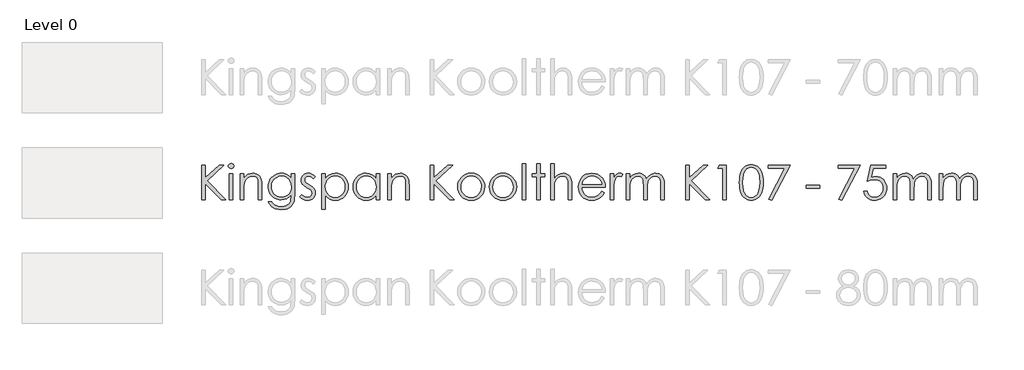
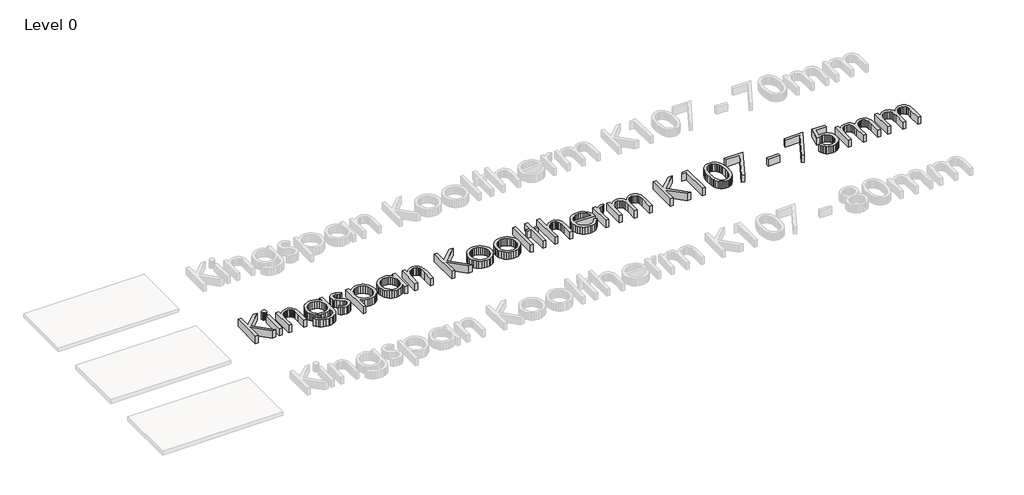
# One storey, part 8 of 13: 1 proxy.
"""IFC4 building model written with IfcOpenShell, lengths in millimetres."""

from ifc_helpers import new_model, si_unit, origin, origin_with_axes, place, context, project, spatial, polyline, outline, extrude, element, save

model = new_model("IFC4")

# Units and contexts
model_context = context("Model", 3, world=origin())
ifc_project = project(units=[si_unit("LENGTHUNIT", "METRE", prefix="MILLI")], contexts=[model_context])

# Site, building, storey
site = spatial("IfcSite", under=ifc_project)
building = spatial("IfcBuilding", under=site)
storey = spatial("IfcBuildingStorey", under=building, Name="Level 0", Elevation=0.0)

# Proxy
placement = place(None, origin())
element("IfcBuildingElementProxy", 1, Name="600mm KI_CenturyGothic", ObjectType="600mm KI_CenturyGothic", at=placement, inside=storey, context=model_context, shape_type="SweptSolid", body=[
    extrude(outline(polyline([(-3852.2663848, -3099.1034017), (-3792.944575, -3099.1034017), (-3792.944575, -3318.316027), (-3555.1938841, -3099.1034017), (-3471.6181051, -3099.1034017), (-3760.9664119, -3366.0515459), (-3441.9572002, -3692.3214999), (-3520.8984627, -3692.3214999), (-3792.944575, -3414.0960325), (-3792.944575, -3692.3214999), (-3852.2663848, -3692.3214999), (-3852.2663848, -3099.1034017)])), origin_with_axes(), (0.0, 0.0, 1.0), 150.0),
    extrude(outline(polyline([(-3348.1854852, -3069.4424967), (-3329.145347, -3072.7252792), (-3313.1176445, -3082.5736265), (-3302.226531, -3097.0178693), (-3298.5961598, -3114.088338), (-3302.226531, -3130.9270809), (-3313.1176445, -3145.2940817), (-3329.145347, -3155.142429), (-3348.1854852, -3158.4252115), (-3366.9938975, -3155.142429), (-3382.9443581, -3145.2940817), (-3393.8354717, -3130.9270809), (-3397.4658428, -3114.088338), (-3393.8354717, -3097.0178693), (-3382.9443581, -3082.5736265), (-3366.9938975, -3072.7252792), (-3348.1854852, -3069.4424967)])), origin_with_axes(), (0.0, 0.0, 1.0), 150.0),
    extrude(outline(polyline([(-3377.6919062, -3247.4079262), (-3318.3700964, -3247.4079262), (-3318.3700964, -3692.3214999), (-3377.6919062, -3692.3214999), (-3377.6919062, -3247.4079262)])), origin_with_axes(), (0.0, 0.0, 1.0), 150.0),
    extrude(outline(polyline([(-3189.8395084, -3247.4079262), (-3130.5176986, -3247.4079262), (-3130.5176986, -3326.5036726), (-3096.9946967, -3286.9944204), (-3060.0730495, -3259.303185), (-3019.7141359, -3242.9665147), (-2975.879335, -3237.5209579), (-2953.4357238, -3239.0995901), (-2932.2955704, -3243.8354865), (-2912.4588747, -3251.7286472), (-2893.9256368, -3262.7790723), (-2877.212412, -3276.5039994), (-2862.835756, -3292.4206667), (-2841.0921499, -3330.8292213), (-2833.6238199, -3355.2087086), (-2828.2892984, -3385.5551357), (-2824.0216812, -3464.1488095), (-2824.0216812, -3692.3214999), (-2883.343491, -3692.3214999), (-2883.343491, -3479.1337458), (-2883.343491, -3376.092998), (-2884.7290183, -3355.2956057), (-2889.8125035, -3337.2403023), (-2898.2849788, -3321.9270877), (-2910.1464442, -3309.355962), (-2924.7403432, -3299.5558909), (-2941.4101193, -3292.5558401), (-2980.977303, -3286.9557994), (-3005.3471351, -3289.1137461), (-3028.4038541, -3295.5875862), (-3050.1474602, -3306.3773197), (-3070.5779533, -3321.4829466), (-3088.6622225, -3339.7651482), (-3103.3671568, -3360.084606), (-3114.6927562, -3382.44132), (-3122.6390208, -3406.8352901), (-3128.5480292, -3453.9142525), (-3130.5176986, -3528.4141035), (-3130.5176986, -3692.3214999), (-3189.8395084, -3692.3214999), (-3189.8395084, -3247.4079262)])), origin_with_axes(), (0.0, 0.0, 1.0), 150.0),
    extrude(outline(polyline([(-2319.7862977, -3247.4079262), (-2260.4644879, -3247.4079262), (-2260.4644879, -3598.395301), (-2264.5196897, -3678.6496765), (-2269.588692, -3709.4499001), (-2276.6852953, -3734.0321474), (-2289.9371156, -3762.6454585), (-2307.2924139, -3787.7732271), (-2328.7511904, -3809.4154531), (-2354.3134448, -3827.5721366), (-2383.3226209, -3841.9343098), (-2415.122162, -3852.1930049), (-2449.7120682, -3858.348222), (-2487.0923395, -3860.3999611), (-2541.0458345, -3856.3833802), (-2589.206184, -3844.3336376), (-2630.260275, -3825.5059147), (-2662.8949946, -3801.1553932), (-2690.2000204, -3767.8061856), (-2715.2650299, -3721.9824048), (-2655.94322, -3721.9824048), (-2642.4355358, -3743.151524), (-2627.0933555, -3761.3951046), (-2609.9166791, -3776.7131468), (-2590.9055067, -3789.1056506), (-2569.7894914, -3798.6691682), (-2546.2982864, -3805.5002523), (-2492.1903075, -3810.9651195), (-2438.5071593, -3805.6354257), (-2415.083541, -3798.9733084), (-2393.93856, -3789.6463441), (-2359.6624492, -3765.6047903), (-2336.8567664, -3736.1176798), (-2329.3884364, -3717.4782342), (-2324.0539149, -3693.7697863), (-2319.7862977, -3631.1458835), (-2319.7862977, -3608.4367532), (-2354.757586, -3644.2190818), (-2396.6420279, -3670.6165148), (-2443.392712, -3686.8952536), (-2492.9627269, -3692.3214999), (-2522.4063889, -3690.4242447), (-2550.9521133, -3684.7324793), (-2578.5999001, -3675.2462036), (-2605.3497494, -3661.9654175), (-2630.1540674, -3645.4742634), (-2651.9652601, -3626.3568832), (-2670.7833277, -3604.6132772), (-2686.6082702, -3580.2434451), (-2699.1456025, -3553.9280817), (-2708.1008399, -3526.3478816), (-2713.4739824, -3497.5028447), (-2715.2650299, -3467.392971), (-2713.3967404, -3437.1044753), (-2707.7918722, -3407.8780563), (-2698.4504251, -3379.713714), (-2685.3723991, -3352.6114483), (-2668.9971079, -3327.4257483), (-2649.7638648, -3305.0111029), (-2627.67267, -3285.367512), (-2602.7235235, -3268.4949758), (-2575.9833294, -3254.943843), (-2548.5189922, -3245.2644624), (-2520.3305117, -3239.456834), (-2491.4178881, -3237.5209579), (-2444.5320306, -3242.4644421), (-2400.8903346, -3257.2948945), (-2359.6045177, -3283.8661218), (-2319.7862977, -3324.0319306), (-2319.7862977, -3247.4079262)]), holes=[polyline([(-2484.1571458, -3286.9557994), (-2529.0154023, -3292.9806707), (-2570.5908765, -3311.0552847), (-2606.2187212, -3339.7699758), (-2633.2340897, -3377.7150788), (-2650.2659375, -3421.9940208), (-2655.94322, -3469.7102292), (-2653.0080263, -3505.6229036), (-2644.2024452, -3538.2817613), (-2629.5264766, -3567.6868023), (-2608.9801206, -3593.8380266), (-2583.7606272, -3615.296803), (-2555.0652466, -3630.6245004), (-2522.8939786, -3639.8211189), (-2487.2468234, -3642.8866584), (-2451.3244937, -3639.845257), (-2419.1001219, -3630.7210528), (-2390.573708, -3615.5140459), (-2365.7452519, -3594.2242363), (-2345.6382095, -3567.9812872), (-2331.2760363, -3537.9148621), (-2322.6587323, -3504.024961), (-2319.7862977, -3466.3115838), (-2325.0773706, -3417.6105407), (-2340.9505892, -3374.3936754), (-2366.4983608, -3338.1672056), (-2400.8130926, -3310.4373492), (-2440.9982119, -3292.8261869), (-2484.1571458, -3286.9557994)])]), origin_with_axes(), (0.0, 0.0, 1.0), 150.0),
    extrude(outline(polyline([(-1904.5336289, -3298.6965743), (-1940.9918246, -3336.390641), (-1962.9575012, -3314.7628978), (-1984.6721416, -3299.3145098), (-2006.1357456, -3290.045477), (-2027.3483133, -3286.9557994), (-2052.181597, -3291.6289368), (-2073.2300256, -3305.6483489), (-2087.5970264, -3325.8857371), (-2092.3860267, -3349.212803), (-2088.4466878, -3370.7633042), (-2076.628671, -3391.2324183), (-2052.0657341, -3413.400855), (-2010.2006027, -3439.122421), (-1958.3326401, -3471.9888664), (-1939.8428507, -3487.8138088), (-1926.315856, -3503.2332311), (-1909.9791857, -3535.9065716), (-1904.5336289, -3572.4420092), (-1906.9474396, -3598.5884059), (-1914.1888714, -3622.6492701), (-1926.2579245, -3644.624602), (-1943.1545989, -3664.5144015), (-1963.6719892, -3681.0055557), (-1986.6031901, -3692.7849515), (-2011.9482016, -3699.852589), (-2039.7070237, -3702.2084682), (-2077.4397114, -3698.3270607), (-2113.3958344, -3686.6828383), (-2145.4512394, -3668.2027042), (-2171.4817731, -3643.8135617), (-2135.7959969, -3603.3387852), (-2114.0041146, -3624.9665283), (-2091.5749863, -3640.4149163), (-2068.5086121, -3649.6839491), (-2044.8049918, -3652.7736267), (-2013.637869, -3647.1349651), (-1987.4914724, -3630.2189802), (-1969.7644472, -3605.6560434), (-1963.8554388, -3577.0765256), (-1967.7561567, -3553.2860081), (-1979.4583106, -3532.2762005), (-2005.0253927, -3510.5712154), (-2050.2119275, -3483.7682622), (-2099.762632, -3453.1032121), (-2117.441381, -3437.9444814), (-2130.3890611, -3422.9016136), (-2146.3781427, -3390.7689666), (-2151.7078365, -3354.310771), (-2149.5305794, -3330.2643896), (-2142.9988078, -3308.3325063), (-2132.1125219, -3288.5151211), (-2116.8717217, -3270.812234), (-2098.309518, -3256.2473007), (-2077.4590218, -3245.8437769), (-2054.3202332, -3239.6016627), (-2028.8931521, -3237.5209579), (-1997.9481, -3241.3444339), (-1966.9064954, -3252.814862), (-1935.7683384, -3271.9322421), (-1904.5336289, -3298.6965743)])), origin_with_axes(), (0.0, 0.0, 1.0), 150.0),
    extrude(outline(polyline([(-1795.7769776, -3247.4079262), (-1736.4551678, -3247.4079262), (-1736.4551678, -3328.5119631), (-1700.9238754, -3288.2689124), (-1660.4490989, -3259.9211205), (-1614.9922173, -3243.1209986), (-1564.5146096, -3237.5209579), (-1520.0618732, -3241.7596094), (-1478.9305402, -3254.4755637), (-1441.1206107, -3275.668821), (-1406.6320845, -3305.3393811), (-1377.9077381, -3340.9768811), (-1357.3903478, -3380.070958), (-1345.0799137, -3422.6216116), (-1340.9764356, -3468.628842), (-1345.0412927, -3515.5291824), (-1357.235864, -3558.7508754), (-1377.5601494, -3598.293921), (-1406.014149, -3634.1583192), (-1440.2130179, -3663.9302594), (-1477.7719111, -3685.1959309), (-1518.6908288, -3697.9553339), (-1562.9697708, -3702.2084682), (-1612.6170277, -3696.743601), (-1658.0545988, -3680.3489992), (-1699.3211052, -3653.1019049), (-1736.4551678, -3615.07956), (-1736.4551678, -3850.5129928), (-1795.7769776, -3850.5129928), (-1795.7769776, -3247.4079262)]), holes=[polyline([(-1568.5311905, -3286.9557994), (-1602.5852307, -3290.2530647), (-1633.8392507, -3300.1448607), (-1662.2932503, -3316.6311872), (-1687.9472295, -3339.7120444), (-1709.1694525, -3367.6977647), (-1724.3281832, -3398.8986808), (-1733.4234216, -3433.3147926), (-1736.4551678, -3470.9461002), (-1731.048232, -3519.8016272), (-1714.8274246, -3563.4819442), (-1688.5265441, -3600.3263495), (-1652.8793888, -3628.6741414), (-1611.4390881, -3646.7487554), (-1567.7587711, -3652.7736267), (-1525.0632888, -3646.7101344), (-1485.0326535, -3628.5196576), (-1450.2544701, -3599.4187567), (-1423.3163435, -3560.6239924), (-1406.05277, -3515.9588407), (-1400.2982454, -3469.2467775), (-1405.9948385, -3422.3029886), (-1423.0846177, -3377.8695627), (-1449.8103289, -3339.5189395), (-1484.414718, -3310.8235589), (-1524.7157001, -3292.9227393), (-1568.5311905, -3286.9557994)])]), origin_with_axes(), (0.0, 0.0, 1.0), 150.0),
    extrude(outline(polyline([(-807.0801472, -3247.4079262), (-807.0801472, -3692.3214999), (-866.401957, -3692.3214999), (-866.401957, -3616.4699149), (-903.4780882, -3654.3184655), (-944.8797679, -3681.0441767), (-990.4525125, -3696.9173953), (-1040.0418379, -3702.2084682), (-1084.3159523, -3697.9553339), (-1125.2203871, -3685.1959309), (-1162.7551422, -3663.9302594), (-1196.9202178, -3634.1583192), (-1225.340424, -3598.293921), (-1245.6405713, -3558.7508754), (-1257.8206597, -3515.5291824), (-1261.8806892, -3468.628842), (-1257.7820388, -3422.6216116), (-1245.4860875, -3380.070958), (-1224.9928353, -3340.9768811), (-1196.3022822, -3305.3393811), (-1161.8475494, -3275.668821), (-1124.061758, -3254.4755637), (-1082.9449079, -3241.7596094), (-1038.4969991, -3237.5209579), (-987.7490446, -3243.1209986), (-942.0990581, -3259.9211205), (-921.2051134, -3272.6081091), (-901.6242816, -3288.2689124), (-866.401957, -3328.5119631), (-866.401957, -3247.4079262), (-807.0801472, -3247.4079262)]), holes=[polyline([(-1034.3259343, -3286.9557994), (-1078.1414247, -3292.9227393), (-1118.4424068, -3310.8235589), (-1153.0467959, -3339.5189395), (-1179.7725071, -3377.8695627), (-1196.8622863, -3422.3029886), (-1202.5588794, -3469.2467775), (-1196.8043548, -3515.9588407), (-1179.5407813, -3560.6239924), (-1152.6026548, -3599.4187567), (-1117.8244713, -3628.5196576), (-1077.6779731, -3646.7101344), (-1034.6349021, -3652.7736267), (-991.0125165, -3646.7487554), (-949.7460102, -3628.6741414), (-914.2726493, -3600.3263495), (-888.0297002, -3563.4819442), (-871.8088928, -3519.8016272), (-866.401957, -3470.9461002), (-869.4337032, -3433.3147926), (-878.5289416, -3398.8986808), (-893.6876723, -3367.6977647), (-914.9098953, -3339.7120444), (-940.5638746, -3316.6311872), (-969.0178742, -3300.1448607), (-1000.2718941, -3290.2530647), (-1034.3259343, -3286.9557994)])]), origin_with_axes(), (0.0, 0.0, 1.0), 150.0),
    extrude(outline(polyline([(-668.662591, -3247.4079262), (-609.3407811, -3247.4079262), (-609.3407811, -3326.5036726), (-575.8177792, -3286.9944204), (-538.896132, -3259.303185), (-498.5372184, -3242.9665147), (-454.7024175, -3237.5209579), (-432.2588064, -3239.0995901), (-411.1186529, -3243.8354865), (-391.2819572, -3251.7286472), (-372.7487193, -3262.7790723), (-356.0354946, -3276.5039994), (-341.6588385, -3292.4206667), (-319.9152324, -3330.8292213), (-312.4469024, -3355.2087086), (-307.1123809, -3385.5551357), (-302.8447637, -3464.1488095), (-302.8447637, -3692.3214999), (-362.1665735, -3692.3214999), (-362.1665735, -3479.1337458), (-362.1665735, -3376.092998), (-363.5521008, -3355.2956057), (-368.635586, -3337.2403023), (-377.1080613, -3321.9270877), (-388.9695267, -3309.355962), (-403.5634257, -3299.5558909), (-420.2332018, -3292.5558401), (-459.8003855, -3286.9557994), (-484.1702176, -3289.1137461), (-507.2269366, -3295.5875862), (-528.9705427, -3306.3773197), (-549.4010358, -3321.4829466), (-567.485305, -3339.7651482), (-582.1902393, -3360.084606), (-593.5158387, -3382.44132), (-601.4621033, -3406.8352901), (-607.3711117, -3453.9142525), (-609.3407811, -3528.4141035), (-609.3407811, -3692.3214999), (-668.662591, -3692.3214999), (-668.662591, -3247.4079262)])), origin_with_axes(), (0.0, 0.0, 1.0), 150.0),
    extrude(outline(polyline([(62.9730635, -3099.1034017), (122.2948734, -3099.1034017), (122.2948734, -3318.316027), (360.0455643, -3099.1034017), (443.6213432, -3099.1034017), (154.2730365, -3366.0515459), (473.2822481, -3692.3214999), (394.3409856, -3692.3214999), (122.2948734, -3414.0960325), (122.2948734, -3692.3214999), (62.9730635, -3692.3214999), (62.9730635, -3099.1034017)])), origin_with_axes(), (0.0, 0.0, 1.0), 150.0),
    extrude(outline(polyline([(760.1588128, -3237.5209579), (809.4681362, -3242.1458191), (854.3553585, -3256.0204025), (894.8204798, -3279.1447083), (930.8635, -3311.5187363), (957.7630055, -3346.7507161), (976.9769381, -3385.091684), (988.5052976, -3426.54164), (992.3480841, -3471.1005841), (988.283227, -3515.9153921), (976.0886558, -3557.8239721), (955.7643703, -3596.8263241), (927.3103707, -3632.9224481), (892.4742558, -3663.2350819), (853.0036246, -3684.8869632), (808.8984769, -3697.8780919), (760.1588128, -3702.2084682), (711.2839754, -3697.8780919), (667.0822753, -3684.8869632), (627.5537126, -3663.2350819), (592.6982872, -3632.9224481), (564.2442876, -3596.8263241), (543.9200022, -3557.8239721), (531.7254309, -3515.9153921), (527.6605738, -3471.1005841), (531.5033603, -3426.7347449), (543.0317198, -3385.4006518), (562.2456524, -3347.0983049), (589.145158, -3311.8277041), (625.2074886, -3279.3185026), (665.7305413, -3256.0976445), (710.7143161, -3242.1651295), (760.1588128, -3237.5209579)]), holes=[polyline([(760.004329, -3286.9557994), (725.7282181, -3290.3303067), (693.9624704, -3300.4538284), (664.7070856, -3317.3263647), (637.962064, -3340.9479154), (615.6584538, -3369.3584664), (599.7273037, -3400.5980035), (590.1686137, -3434.6665266), (586.9823836, -3471.5640357), (592.7948396, -3519.2995546), (610.2322075, -3563.6364281), (637.5758543, -3601.4270471), (673.1071466, -3629.5238028), (714.6439998, -3646.9611707), (760.004329, -3652.7736267), (805.3646581, -3646.9611707), (846.9015113, -3629.5238028), (882.4328037, -3601.4270471), (909.7764504, -3563.6364281), (927.2138183, -3519.2995546), (933.0262743, -3471.5640357), (929.8255614, -3434.6665266), (920.2234227, -3400.5980035), (904.2198583, -3369.3584664), (881.8148681, -3340.9479154), (854.9974321, -3317.3263647), (825.7565303, -3300.4538284), (794.0921625, -3290.3303067), (760.004329, -3286.9557994)])]), origin_with_axes(), (0.0, 0.0, 1.0), 150.0),
    extrude(outline(polyline([(1303.9420695, -3237.5209579), (1353.2513929, -3242.1458191), (1398.1386152, -3256.0204025), (1438.6037365, -3279.1447083), (1474.6467567, -3311.5187363), (1501.5462622, -3346.7507161), (1520.7601948, -3385.091684), (1532.2885543, -3426.54164), (1536.1313408, -3471.1005841), (1532.0664837, -3515.9153921), (1519.8719125, -3557.8239721), (1499.547627, -3596.8263241), (1471.0936274, -3632.9224481), (1436.2575126, -3663.2350819), (1396.7868813, -3684.8869632), (1352.6817336, -3697.8780919), (1303.9420695, -3702.2084682), (1255.0672321, -3697.8780919), (1210.865532, -3684.8869632), (1171.3369693, -3663.2350819), (1136.4815439, -3632.9224481), (1108.0275443, -3596.8263241), (1087.7032589, -3557.8239721), (1075.5086876, -3515.9153921), (1071.4438305, -3471.1005841), (1075.286617, -3426.7347449), (1086.8149766, -3385.4006518), (1106.0289091, -3347.0983049), (1132.9284147, -3311.8277041), (1168.9907453, -3279.3185026), (1209.5137981, -3256.0976445), (1254.4975728, -3242.1651295), (1303.9420695, -3237.5209579)]), holes=[polyline([(1303.7875857, -3286.9557994), (1269.5114748, -3290.3303067), (1237.7457271, -3300.4538284), (1208.4903423, -3317.3263647), (1181.7453207, -3340.9479154), (1159.4417105, -3369.3584664), (1143.5105604, -3400.5980035), (1133.9518704, -3434.6665266), (1130.7656404, -3471.5640357), (1136.5780963, -3519.2995546), (1154.0154643, -3563.6364281), (1181.359111, -3601.4270471), (1216.8904033, -3629.5238028), (1258.4272565, -3646.9611707), (1303.7875857, -3652.7736267), (1349.1479149, -3646.9611707), (1390.684768, -3629.5238028), (1426.2160604, -3601.4270471), (1453.5597071, -3563.6364281), (1470.997075, -3519.2995546), (1476.809531, -3471.5640357), (1473.6088181, -3434.6665266), (1464.0066795, -3400.5980035), (1448.003115, -3369.3584664), (1425.5981249, -3340.9479154), (1398.7806889, -3317.3263647), (1369.539787, -3300.4538284), (1337.8754193, -3290.3303067), (1303.7875857, -3286.9557994)])]), origin_with_axes(), (0.0, 0.0, 1.0), 150.0),
    extrude(outline(polyline([(1635.0010238, -3079.3294651), (1694.3228337, -3079.3294651), (1694.3228337, -3692.3214999), (1635.0010238, -3692.3214999), (1635.0010238, -3079.3294651)])), origin_with_axes(), (0.0, 0.0, 1.0), 150.0),
    extrude(outline(polyline([(1882.1752314, -3079.3294651), (1941.4970413, -3079.3294651), (1941.4970413, -3247.4079262), (2020.5927877, -3247.4079262), (2020.5927877, -3296.8427677), (1941.4970413, -3296.8427677), (1941.4970413, -3692.3214999), (1882.1752314, -3692.3214999), (1882.1752314, -3296.8427677), (1803.079485, -3296.8427677), (1803.079485, -3247.4079262), (1882.1752314, -3247.4079262), (1882.1752314, -3079.3294651)])), origin_with_axes(), (0.0, 0.0, 1.0), 150.0),
    extrude(outline(polyline([(2119.4624707, -3079.3294651), (2178.7842806, -3079.3294651), (2178.7842806, -3328.0485114), (2212.5583188, -3288.3461544), (2249.6151394, -3260.0756044), (2289.9161216, -3243.1596195), (2333.4226442, -3237.5209579), (2355.8662553, -3239.0995901), (2377.0064088, -3243.8354865), (2396.8431044, -3251.7286472), (2415.3763424, -3262.7790723), (2432.0895671, -3276.4895166), (2446.4662232, -3292.3627352), (2468.2098293, -3330.5974955), (2475.6781593, -3354.9045684), (2481.0126808, -3385.2654784), (2485.280298, -3464.1488095), (2485.280298, -3692.3214999), (2425.9584882, -3692.3214999), (2425.9584882, -3479.1337458), (2424.5681332, -3414.752589), (2420.3970685, -3376.092998), (2406.879729, -3337.2403023), (2397.1665551, -3321.9270877), (2385.4837117, -3309.355962), (2371.840854, -3299.5558909), (2356.2476374, -3292.5558401), (2319.2101273, -3286.9557994), (2296.3416854, -3289.1137461), (2274.6994594, -3295.5875862), (2254.2834492, -3306.3773197), (2235.0936547, -3321.4829466), (2218.1052556, -3339.7651482), (2204.2934312, -3360.084606), (2193.6581816, -3382.44132), (2186.1995068, -3406.8352901), (2180.6380871, -3453.6825267), (2178.7842806, -3528.4141035), (2178.7842806, -3692.3214999), (2119.4624707, -3692.3214999), (2119.4624707, -3079.3294651)])), origin_with_axes(), (0.0, 0.0, 1.0), 150.0),
    extrude(outline(polyline([(2991.0605203, -3544.0169753), (3038.950523, -3569.1978477), (3013.3255094, -3611.0822896), (2984.0315038, -3644.0452875), (2950.952643, -3669.1296074), (2913.9730643, -3687.3780157), (2872.4941426, -3698.5008551), (2825.9172528, -3702.2084682), (2774.4258447, -3697.7767119), (2728.8627554, -3684.481443), (2689.227985, -3662.3226615), (2655.5215335, -3631.3003674), (2628.6220279, -3594.6973431), (2609.4080954, -3555.7963712), (2597.8797358, -3514.5974515), (2594.0369493, -3471.1005841), (2597.3197318, -3430.2202874), (2607.1680791, -3391.618628), (2623.5819913, -3355.2956057), (2646.5614684, -3321.2512207), (2682.7493173, -3284.6192308), (2724.5758277, -3258.4535236), (2772.0409998, -3242.7540993), (2825.1448334, -3237.5209579), (2879.7935059, -3242.8892727), (2928.6490329, -3258.9942172), (2971.7114143, -3285.8357913), (3008.9806503, -3323.4139951), (3030.4539096, -3355.585263), (3045.9022976, -3391.541386), (3055.3258143, -3431.2823641), (3058.7244596, -3474.8081972), (2653.3587591, -3474.8081972), (2657.095338, -3512.0629503), (2666.6057518, -3545.8128504), (2681.8900007, -3576.0578975), (2702.9480845, -3602.7980916), (2728.3124066, -3624.6623882), (2756.5153699, -3640.2797429), (2787.5569744, -3649.6501557), (2821.4372203, -3652.7736267), (2854.9602222, -3649.761191), (2887.5563208, -3640.7238841), (2917.2944677, -3626.6851615), (2942.2436143, -3608.668479), (2965.725164, -3582.5027719), (2991.0605203, -3544.0169753)]), holes=[polyline([(2999.4026498, -3425.3733557), (2984.9777175, -3382.8516678), (2965.1844704, -3349.8307385), (2939.0766947, -3324.3022774), (2905.7081767, -3304.257994), (2867.7630738, -3291.2813481), (2827.9255433, -3286.9557994), (2795.503239, -3289.6689226), (2765.4368139, -3297.808292), (2737.726268, -3311.3739077), (2712.3716012, -3330.3657696), (2695.8321708, -3348.179692), (2681.4362043, -3369.9522638), (2669.1837016, -3395.683485), (2659.0746627, -3425.3733557), (2999.4026498, -3425.3733557)])]), origin_with_axes(), (0.0, 0.0, 1.0), 150.0),
    extrude(outline(polyline([(3137.820206, -3247.4079262), (3197.1420159, -3247.4079262), (3197.1420159, -3311.8277041), (3222.6897875, -3278.7874643), (3249.589293, -3255.6728138), (3277.7632906, -3242.0589219), (3307.1345382, -3237.5209579), (3330.4616041, -3241.305813), (3355.3335087, -3252.6603781), (3325.8270877, -3294.6799934), (3297.2475699, -3286.9557994), (3270.8308265, -3292.9034288), (3245.3409863, -3310.7463169), (3223.2884125, -3341.1023993), (3207.183468, -3384.5896114), (3199.6523789, -3442.7141712), (3197.1420159, -3540.1548783), (3197.1420159, -3692.3214999), (3137.820206, -3692.3214999), (3137.820206, -3247.4079262)])), origin_with_axes(), (0.0, 0.0, 1.0), 150.0),
    extrude(outline(polyline([(3414.6553185, -3247.4079262), (3473.9771284, -3247.4079262), (3473.9771284, -3323.5684789), (3503.5607913, -3287.0716623), (3533.9168737, -3261.9294109), (3577.3268439, -3243.6230712), (3622.8995884, -3237.5209579), (3653.7384329, -3240.668567), (3682.9165757, -3250.1113941), (3708.6767627, -3264.7873627), (3729.2617397, -3283.634396), (3746.0425511, -3309.0663047), (3760.3902414, -3343.4968994), (3775.16759, -3319.0981017), (3791.6925376, -3297.808292), (3809.965084, -3279.6274704), (3829.9852293, -3264.5556369), (3851.2798666, -3252.7279648), (3873.375889, -3244.2796277), (3896.2732965, -3239.2106253), (3919.9720892, -3237.5209579), (3962.3006723, -3243.3334139), (3981.4952943, -3250.5989839), (3999.3768034, -3260.7707818), (4015.4914031, -3273.53984), (4029.385297, -3288.5971907), (4050.5109676, -3325.5767694), (4057.8103309, -3348.9521114), (4063.0241619, -3377.5219739), (4067.1952266, -3450.2452603), (4067.1952266, -3692.3214999), (4007.8734168, -3692.3214999), (4007.8734168, -3446.6921311), (4005.4209852, -3385.5744462), (3998.0636904, -3347.1272706), (3984.7587663, -3322.6608861), (3964.4634466, -3303.4855746), (3938.3942919, -3291.0882432), (3907.7678627, -3286.9557994), (3888.1194443, -3288.5054659), (3869.3399976, -3293.1544651), (3834.3880198, -3311.7504621), (3805.6540182, -3340.6968791), (3785.8800816, -3377.9468046), (3779.1889985, -3402.1042213), (3774.4096535, -3433.1747916), (3770.5861775, -3516.0553931), (3770.5861775, -3692.3214999), (3711.2643677, -3692.3214999), (3711.2643677, -3461.9860352), (3708.850557, -3393.530366), (3701.6091252, -3351.2983353), (3688.3621325, -3325.0553863), (3667.9316394, -3304.5669617), (3641.6114484, -3291.35859), (3610.6953619, -3286.9557994), (3573.7544042, -3292.9999812), (3539.2465676, -3311.1325266), (3510.2808401, -3339.499629), (3489.9662099, -3376.2474819), (3477.9743988, -3428.0768236), (3473.9771284, -3501.6883923), (3473.9771284, -3692.3214999), (3414.6553185, -3692.3214999), (3414.6553185, -3247.4079262)])), origin_with_axes(), (0.0, 0.0, 1.0), 150.0),
    extrude(outline(polyline([(4433.0130538, -3099.1034017), (4492.3348637, -3099.1034017), (4492.3348637, -3318.316027), (4730.0855546, -3099.1034017), (4813.6613335, -3099.1034017), (4524.3130268, -3366.0515459), (4843.3222385, -3692.3214999), (4764.3809759, -3692.3214999), (4492.3348637, -3414.0960325), (4492.3348637, -3692.3214999), (4433.0130538, -3692.3214999), (4433.0130538, -3099.1034017)])), origin_with_axes(), (0.0, 0.0, 1.0), 150.0),
    extrude(outline(polyline([(5010.6282802, -3099.1034017), (5125.1008351, -3099.1034017), (5125.1008351, -3692.3214999), (5065.7790253, -3692.3214999), (5065.7790253, -3148.5382432), (4976.7963106, -3148.5382432), (5010.6282802, -3099.1034017)])), origin_with_axes(), (0.0, 0.0, 1.0), 150.0),
    extrude(outline(polyline([(5352.5011061, -3395.8669347), (5354.0797383, -3341.4355052), (5358.8156347, -3293.5406748), (5366.7087954, -3252.1824436), (5377.7592204, -3217.3608116), (5391.6869077, -3187.7192172), (5408.2118552, -3161.9010988), (5427.334063, -3139.9064564), (5449.053531, -3121.73529), (5472.747496, -3107.5082902), (5497.793195, -3097.3461475), (5524.190628, -3091.2488619), (5551.9397949, -3089.2164334), (5580.1427582, -3091.2633448), (5606.974677, -3097.404079), (5632.4355515, -3107.638636), (5656.5253815, -3121.9670159), (5678.7083011, -3140.3843909), (5698.4484443, -3162.8859335), (5715.7458112, -3189.4716437), (5730.6004018, -3220.1415214), (5742.5294539, -3255.6583309), (5751.0502054, -3296.7848363), (5756.1626563, -3343.5210375), (5757.8668066, -3395.8669347), (5756.1867944, -3448.0535203), (5751.1467578, -3494.6207548), (5742.7466968, -3535.5686382), (5730.9866115, -3570.8971704), (5716.2768496, -3601.4222195), (5699.0277589, -3627.9596535), (5679.2393394, -3650.5094723), (5656.9115912, -3669.071676), (5632.6527944, -3683.5690226), (5607.0712295, -3693.9242701), (5580.1668963, -3700.1374187), (5551.9397949, -3702.2084682), (5524.2147661, -3700.2001778), (5497.8897474, -3694.1753064), (5472.964739, -3684.1338543), (5449.4397407, -3670.0758212), (5427.8651013, -3652.0398282), (5408.7911698, -3630.0644964), (5392.2179461, -3604.1498255), (5378.1454301, -3574.2958158), (5366.9260384, -3539.2762513), (5358.9121871, -3497.8649163), (5354.1038764, -3450.0618107), (5352.5011061, -3395.8669347)]), holes=[polyline([(5411.8229159, -3395.7124508), (5416.206396, -3484.038609), (5421.6857461, -3519.0195525), (5429.3568363, -3547.8790723), (5439.1713903, -3572.1185586), (5451.0811319, -3593.2394015), (5465.0860611, -3611.2416011), (5481.1861779, -3626.1251574), (5516.4857445, -3646.1115094), (5534.8886366, -3651.1080973), (5553.7936014, -3652.7736267), (5572.7854634, -3651.1418907), (5591.1400794, -3646.2466828), (5625.9375733, -3626.665851), (5641.694929, -3611.9898824), (5655.4439943, -3594.0697524), (5667.1847692, -3572.9054608), (5676.9172536, -3548.4970078), (5686.3793912, -3515.1381451), (5693.138061, -3478.5544313), (5698.5449967, -3395.7124508), (5693.7173755, -3314.1063413), (5687.682849, -3279.4150551), (5679.2345118, -3248.7982811), (5668.652366, -3222.135329), (5656.2164137, -3199.3055082), (5641.9266548, -3180.3088186), (5625.7830894, -3165.1452603), (5590.7152487, -3145.2747712), (5572.4861509, -3140.307149), (5553.7936014, -3138.6512749), (5534.7776014, -3140.307149), (5516.3505711, -3145.2747712), (5481.2634199, -3165.1452603), (5465.3177869, -3179.9564022), (5451.3900996, -3197.8958428), (5439.480358, -3218.9635819), (5429.5885621, -3243.1596195), (5421.8160919, -3272.0143117), (5416.2643275, -3307.0580143), (5411.8229159, -3395.7124508)])]), origin_with_axes(), (0.0, 0.0, 1.0), 150.0),
    extrude(outline(polyline([(5846.8495213, -3099.1034017), (6222.5543169, -3099.1034017), (5906.1713311, -3702.2084682), (5852.2564571, -3679.8083056), (6130.9453762, -3148.5382432), (5846.8495213, -3148.5382432), (5846.8495213, -3099.1034017)])), origin_with_axes(), (0.0, 0.0, 1.0), 150.0),
    extrude(outline(polyline([(6499.3894294, -3445.1472923), (6726.7897004, -3445.1472923), (6726.7897004, -3494.5821338), (6499.3894294, -3494.5821338), (6499.3894294, -3445.1472923)])), origin_with_axes(), (0.0, 0.0, 1.0), 150.0),
    extrude(outline(polyline([(7043.1726861, -3099.1034017), (7418.8774816, -3099.1034017), (7102.4944959, -3702.2084682), (7048.5796219, -3679.8083056), (7327.2685409, -3148.5382432), (7043.1726861, -3148.5382432), (7043.1726861, -3099.1034017)])), origin_with_axes(), (0.0, 0.0, 1.0), 150.0),
    extrude(outline(polyline([(7853.904087, -3099.1034017), (7853.904087, -3148.5382432), (7646.5867204, -3148.5382432), (7612.1368152, -3309.5104459), (7649.7150189, -3300.0096873), (7683.3538838, -3296.8427677), (7722.9403779, -3300.2655512), (7758.8965009, -3310.5339016), (7791.2222528, -3327.6478189), (7819.9176335, -3351.6073031), (7843.4378041, -3380.9157917), (7860.2379261, -3414.076722), (7870.3179992, -3451.090094), (7873.6780236, -3491.9559079), (7871.9545628, -3520.9216353), (7866.7841805, -3548.6514917), (7858.1668766, -3575.1454771), (7846.1026511, -3600.4035914), (7831.0984042, -3623.6051391), (7813.6610363, -3643.9294246), (7793.7905473, -3661.3764477), (7771.4869371, -3675.9462086), (7747.054346, -3687.4359472), (7720.7969141, -3695.6429033), (7692.7146413, -3700.567077), (7662.8075277, -3702.2084682), (7627.4741679, -3699.4518965), (7595.008415, -3691.1821813), (7565.4102692, -3677.3993226), (7538.6797304, -3658.1033205), (7515.9271515, -3634.4334936), (7498.2628853, -3607.5291604), (7485.686932, -3577.390321), (7478.1992914, -3544.0169753), (7537.5211013, -3544.0169753), (7547.0991018, -3576.7482474), (7561.6205865, -3602.6436077), (7581.4524546, -3622.9582379), (7606.9616052, -3638.9473194), (7635.9852641, -3649.3170499), (7666.360657, -3652.7736267), (7695.6498351, -3649.8480882), (7722.8052045, -3641.0714728), (7747.8267654, -3626.4437804), (7770.7145178, -3605.9650111), (7789.8077598, -3581.0931065), (7803.4457898, -3553.2860081), (7811.6286078, -3522.543716), (7814.3562138, -3488.8662303), (7811.8941269, -3458.6791146), (7804.5078664, -3431.4561585), (7792.1974323, -3407.1973617), (7774.9628244, -3385.9027244), (7753.6054281, -3368.5667365), (7728.9266283, -3356.183888), (7700.9264251, -3348.754179), (7669.6048185, -3346.2776093), (7640.8997825, -3348.1314158), (7609.3174844, -3353.6928355), (7537.5211013, -3375.9385142), (7596.8429111, -3099.1034017), (7853.904087, -3099.1034017)])), origin_with_axes(), (0.0, 0.0, 1.0), 150.0),
    extrude(outline(polyline([(7982.4346749, -3247.4079262), (8041.7564848, -3247.4079262), (8041.7564848, -3323.5684789), (8071.3401477, -3287.0716623), (8101.6962301, -3261.9294109), (8145.1062003, -3243.6230712), (8190.6789448, -3237.5209579), (8221.5177893, -3240.668567), (8250.6959321, -3250.1113941), (8276.4561191, -3264.7873627), (8297.0410961, -3283.634396), (8313.8219075, -3309.0663047), (8328.1695978, -3343.4968994), (8342.9469464, -3319.0981017), (8359.471894, -3297.808292), (8377.7444404, -3279.6274704), (8397.7645856, -3264.5556369), (8419.0592229, -3252.7279648), (8441.1552454, -3244.2796277), (8464.0526529, -3239.2106253), (8487.7514456, -3237.5209579), (8530.0800287, -3243.3334139), (8549.2746507, -3250.5989839), (8567.1561598, -3260.7707818), (8583.2707595, -3273.53984), (8597.1646534, -3288.5971907), (8618.290324, -3325.5767694), (8625.5896873, -3348.9521114), (8630.8035182, -3377.5219739), (8634.974583, -3450.2452603), (8634.974583, -3692.3214999), (8575.6527732, -3692.3214999), (8575.6527732, -3446.6921311), (8573.2003416, -3385.5744462), (8565.8430468, -3347.1272706), (8552.5381227, -3322.6608861), (8532.242803, -3303.4855746), (8506.1736483, -3291.0882432), (8475.5472191, -3286.9557994), (8455.8988006, -3288.5054659), (8437.119354, -3293.1544651), (8402.1673762, -3311.7504621), (8373.4333746, -3340.6968791), (8353.659438, -3377.9468046), (8346.9683549, -3402.1042213), (8342.1890099, -3433.1747916), (8338.3655339, -3516.0553931), (8338.3655339, -3692.3214999), (8279.0437241, -3692.3214999), (8279.0437241, -3461.9860352), (8276.6299134, -3393.530366), (8269.3884816, -3351.2983353), (8256.1414889, -3325.0553863), (8235.7109958, -3304.5669617), (8209.3908048, -3291.35859), (8178.4747183, -3286.9557994), (8141.5337606, -3292.9999812), (8107.025924, -3311.1325266), (8078.0601965, -3339.499629), (8057.7455663, -3376.2474819), (8045.7537552, -3428.0768236), (8041.7564848, -3501.6883923), (8041.7564848, -3692.3214999), (7982.4346749, -3692.3214999), (7982.4346749, -3247.4079262)])), origin_with_axes(), (0.0, 0.0, 1.0), 150.0),
    extrude(outline(polyline([(8773.3921393, -3247.4079262), (8832.7139491, -3247.4079262), (8832.7139491, -3323.5684789), (8862.2976121, -3287.0716623), (8892.6536944, -3261.9294109), (8936.0636646, -3243.6230712), (8981.6364092, -3237.5209579), (9012.4752537, -3240.668567), (9041.6533964, -3250.1113941), (9067.4135834, -3264.7873627), (9087.9985604, -3283.634396), (9104.7793718, -3309.0663047), (9119.1270621, -3343.4968994), (9133.9044108, -3319.0981017), (9150.4293583, -3297.808292), (9168.7019047, -3279.6274704), (9188.72205, -3264.5556369), (9210.0166873, -3252.7279648), (9232.1127097, -3244.2796277), (9255.0101172, -3239.2106253), (9278.7089099, -3237.5209579), (9321.037493, -3243.3334139), (9340.232115, -3250.5989839), (9358.1136241, -3260.7707818), (9374.2282238, -3273.53984), (9388.1221177, -3288.5971907), (9409.2477883, -3325.5767694), (9416.5471516, -3348.9521114), (9421.7609826, -3377.5219739), (9425.9320473, -3450.2452603), (9425.9320473, -3692.3214999), (9366.6102375, -3692.3214999), (9366.6102375, -3446.6921311), (9364.1578059, -3385.5744462), (9356.8005111, -3347.1272706), (9343.495587, -3322.6608861), (9323.2002673, -3303.4855746), (9297.1311126, -3291.0882432), (9266.5046834, -3286.9557994), (9246.856265, -3288.5054659), (9228.0768183, -3293.1544651), (9193.1248405, -3311.7504621), (9164.3908389, -3340.6968791), (9144.6169023, -3377.9468046), (9137.9258192, -3402.1042213), (9133.1464742, -3433.1747916), (9129.3229982, -3516.0553931), (9129.3229982, -3692.3214999), (9070.0011884, -3692.3214999), (9070.0011884, -3461.9860352), (9067.5873778, -3393.530366), (9060.3459459, -3351.2983353), (9047.0989532, -3325.0553863), (9026.6684601, -3304.5669617), (9000.3482691, -3291.35859), (8969.4321827, -3286.9557994), (8932.4912249, -3292.9999812), (8897.9833883, -3311.1325266), (8869.0176608, -3339.499629), (8848.7030306, -3376.2474819), (8836.7112195, -3428.0768236), (8832.7139491, -3501.6883923), (8832.7139491, -3692.3214999), (8773.3921393, -3692.3214999), (8773.3921393, -3247.4079262)])), origin_with_axes(), (0.0, 0.0, 1.0), 150.0),
])

save(model, "model.ifc")
